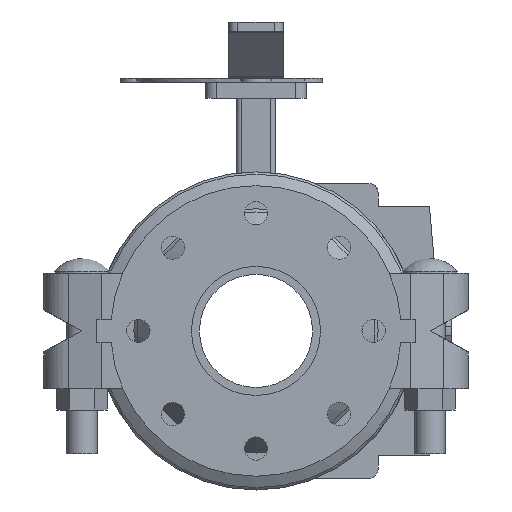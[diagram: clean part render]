
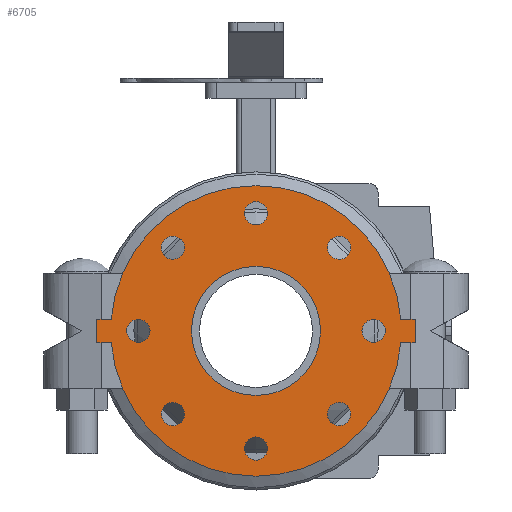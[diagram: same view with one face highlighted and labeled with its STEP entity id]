
A CAD part, front view. The second image highlights one B-rep face of the part: STEP entity #6705.
In plain terms, the highlighted planar face has unit normal (0, -1, 0) as drawn and (0, 0, -1) by its records, which use the part's own axes.
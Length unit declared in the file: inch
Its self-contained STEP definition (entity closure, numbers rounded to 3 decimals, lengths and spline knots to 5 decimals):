
#159=FACE_BOUND('',#837,.T.);
#160=FACE_BOUND('',#838,.T.);
#161=FACE_BOUND('',#839,.T.);
#162=FACE_BOUND('',#840,.T.);
#163=FACE_BOUND('',#841,.T.);
#164=FACE_BOUND('',#842,.T.);
#165=FACE_BOUND('',#843,.T.);
#166=FACE_BOUND('',#844,.T.);
#167=FACE_BOUND('',#845,.T.);
#245=PLANE('',#7271);
#464=FACE_OUTER_BOUND('',#836,.T.);
#836=EDGE_LOOP('',(#4358,#4359,#4360,#4361,#4362,#4363,#4364,#4365));
#837=EDGE_LOOP('',(#4366));
#838=EDGE_LOOP('',(#4367));
#839=EDGE_LOOP('',(#4368));
#840=EDGE_LOOP('',(#4369));
#841=EDGE_LOOP('',(#4370));
#842=EDGE_LOOP('',(#4371));
#843=EDGE_LOOP('',(#4372));
#844=EDGE_LOOP('',(#4373));
#845=EDGE_LOOP('',(#4374));
#1273=LINE('',#10175,#1788);
#1276=LINE('',#10181,#1791);
#1279=LINE('',#10186,#1794);
#1281=LINE('',#10191,#1796);
#1285=LINE('',#10198,#1800);
#1287=LINE('',#10201,#1802);
#1788=VECTOR('',#8099,0.3937);
#1791=VECTOR('',#8104,0.3937);
#1794=VECTOR('',#8109,0.3937);
#1796=VECTOR('',#8113,0.3937);
#1800=VECTOR('',#8119,0.3937);
#1802=VECTOR('',#8123,0.3937);
#2291=CIRCLE('',#7233,0.315);
#2293=CIRCLE('',#7236,0.315);
#2295=CIRCLE('',#7239,0.315);
#2297=CIRCLE('',#7242,0.315);
#2299=CIRCLE('',#7245,0.315);
#2301=CIRCLE('',#7248,0.315);
#2303=CIRCLE('',#7251,0.315);
#2305=CIRCLE('',#7254,0.315);
#2306=CIRCLE('',#7256,1.75);
#2308=CIRCLE('',#7259,3.94);
#2311=CIRCLE('',#7263,3.94);
#2675=VERTEX_POINT('',#10104);
#2677=VERTEX_POINT('',#10110);
#2679=VERTEX_POINT('',#10116);
#2681=VERTEX_POINT('',#10122);
#2683=VERTEX_POINT('',#10128);
#2685=VERTEX_POINT('',#10134);
#2687=VERTEX_POINT('',#10140);
#2689=VERTEX_POINT('',#10146);
#2690=VERTEX_POINT('',#10150);
#2692=VERTEX_POINT('',#10156);
#2694=VERTEX_POINT('',#10159);
#2696=VERTEX_POINT('',#10165);
#2699=VERTEX_POINT('',#10170);
#2700=VERTEX_POINT('',#10174);
#2702=VERTEX_POINT('',#10180);
#2704=VERTEX_POINT('',#10189);
#2705=VERTEX_POINT('',#10190);
#3320=EDGE_CURVE('',#2675,#2675,#2291,.T.);
#3323=EDGE_CURVE('',#2677,#2677,#2293,.T.);
#3326=EDGE_CURVE('',#2679,#2679,#2295,.T.);
#3329=EDGE_CURVE('',#2681,#2681,#2297,.T.);
#3332=EDGE_CURVE('',#2683,#2683,#2299,.T.);
#3335=EDGE_CURVE('',#2685,#2685,#2301,.T.);
#3338=EDGE_CURVE('',#2687,#2687,#2303,.T.);
#3341=EDGE_CURVE('',#2689,#2689,#2305,.T.);
#3342=EDGE_CURVE('',#2690,#2690,#2306,.T.);
#3346=EDGE_CURVE('',#2692,#2694,#2308,.T.);
#3352=EDGE_CURVE('',#2699,#2696,#2311,.T.);
#3353=EDGE_CURVE('',#2694,#2700,#1273,.T.);
#3356=EDGE_CURVE('',#2702,#2699,#1276,.T.);
#3359=EDGE_CURVE('',#2700,#2702,#1279,.T.);
#3361=EDGE_CURVE('',#2704,#2705,#1281,.T.);
#3365=EDGE_CURVE('',#2696,#2704,#1285,.T.);
#3367=EDGE_CURVE('',#2705,#2692,#1287,.T.);
#4358=ORIENTED_EDGE('',*,*,#3367,.F.);
#4359=ORIENTED_EDGE('',*,*,#3361,.F.);
#4360=ORIENTED_EDGE('',*,*,#3365,.F.);
#4361=ORIENTED_EDGE('',*,*,#3352,.F.);
#4362=ORIENTED_EDGE('',*,*,#3356,.F.);
#4363=ORIENTED_EDGE('',*,*,#3359,.F.);
#4364=ORIENTED_EDGE('',*,*,#3353,.F.);
#4365=ORIENTED_EDGE('',*,*,#3346,.F.);
#4366=ORIENTED_EDGE('',*,*,#3320,.T.);
#4367=ORIENTED_EDGE('',*,*,#3323,.T.);
#4368=ORIENTED_EDGE('',*,*,#3326,.T.);
#4369=ORIENTED_EDGE('',*,*,#3329,.T.);
#4370=ORIENTED_EDGE('',*,*,#3332,.T.);
#4371=ORIENTED_EDGE('',*,*,#3335,.T.);
#4372=ORIENTED_EDGE('',*,*,#3338,.T.);
#4373=ORIENTED_EDGE('',*,*,#3341,.T.);
#4374=ORIENTED_EDGE('',*,*,#3342,.T.);
#6705=ADVANCED_FACE('',(#464,#159,#160,#161,#162,#163,#164,#165,#166,#167),
#245,.F.);
#7233=AXIS2_PLACEMENT_3D('',#10106,#8023,#8024);
#7236=AXIS2_PLACEMENT_3D('',#10112,#8030,#8031);
#7239=AXIS2_PLACEMENT_3D('',#10118,#8037,#8038);
#7242=AXIS2_PLACEMENT_3D('',#10124,#8044,#8045);
#7245=AXIS2_PLACEMENT_3D('',#10130,#8051,#8052);
#7248=AXIS2_PLACEMENT_3D('',#10136,#8058,#8059);
#7251=AXIS2_PLACEMENT_3D('',#10142,#8065,#8066);
#7254=AXIS2_PLACEMENT_3D('',#10148,#8072,#8073);
#7256=AXIS2_PLACEMENT_3D('',#10151,#8076,#8077);
#7259=AXIS2_PLACEMENT_3D('',#10160,#8084,#8085);
#7263=AXIS2_PLACEMENT_3D('',#10172,#8095,#8096);
#7271=AXIS2_PLACEMENT_3D('',#10204,#8127,#8128);
#8023=DIRECTION('center_axis',(0.,0.,1.));
#8024=DIRECTION('ref_axis',(-0.707,-0.707,0.));
#8030=DIRECTION('center_axis',(0.,0.,1.));
#8031=DIRECTION('ref_axis',(-1.,0.,0.));
#8037=DIRECTION('center_axis',(0.,0.,1.));
#8038=DIRECTION('ref_axis',(-0.707,0.707,0.));
#8044=DIRECTION('center_axis',(0.,0.,1.));
#8045=DIRECTION('ref_axis',(0.,1.,0.));
#8051=DIRECTION('center_axis',(0.,0.,1.));
#8052=DIRECTION('ref_axis',(0.707,0.707,0.));
#8058=DIRECTION('center_axis',(0.,0.,1.));
#8059=DIRECTION('ref_axis',(1.,0.,0.));
#8065=DIRECTION('center_axis',(0.,0.,1.));
#8066=DIRECTION('ref_axis',(0.707,-0.707,0.));
#8072=DIRECTION('center_axis',(0.,0.,1.));
#8073=DIRECTION('ref_axis',(0.,-1.,0.));
#8076=DIRECTION('center_axis',(0.,0.,1.));
#8077=DIRECTION('ref_axis',(0.,-1.,0.));
#8084=DIRECTION('center_axis',(0.,0.,1.));
#8085=DIRECTION('ref_axis',(0.,1.,0.));
#8095=DIRECTION('center_axis',(0.,0.,1.));
#8096=DIRECTION('ref_axis',(0.,1.,0.));
#8099=DIRECTION('',(0.,-1.,0.));
#8104=DIRECTION('',(0.,1.,0.));
#8109=DIRECTION('',(1.,0.,0.));
#8113=DIRECTION('',(-1.,0.,0.));
#8119=DIRECTION('',(0.,1.,0.));
#8123=DIRECTION('',(0.,-1.,0.));
#8127=DIRECTION('center_axis',(0.,0.,1.));
#8128=DIRECTION('ref_axis',(0.,1.,0.));
#10104=CARTESIAN_POINT('',(-2.03293,2.47841,0.));
#10106=CARTESIAN_POINT('Origin',(-2.25567,2.25567,0.));
#10110=CARTESIAN_POINT('',(0.315,3.19,0.));
#10112=CARTESIAN_POINT('Origin',(0.,3.19,0.));
#10116=CARTESIAN_POINT('',(2.47841,2.03293,0.));
#10118=CARTESIAN_POINT('Origin',(2.25567,2.25567,0.));
#10122=CARTESIAN_POINT('',(3.19,-0.315,0.));
#10124=CARTESIAN_POINT('Origin',(3.19,0.,0.));
#10128=CARTESIAN_POINT('',(2.03293,-2.47841,0.));
#10130=CARTESIAN_POINT('Origin',(2.25567,-2.25567,0.));
#10134=CARTESIAN_POINT('',(-0.315,-3.19,0.));
#10136=CARTESIAN_POINT('Origin',(0.,-3.19,0.));
#10140=CARTESIAN_POINT('',(-2.47841,-2.03293,0.));
#10142=CARTESIAN_POINT('Origin',(-2.25567,-2.25567,0.));
#10146=CARTESIAN_POINT('',(-3.19,0.315,0.));
#10148=CARTESIAN_POINT('Origin',(-3.19,0.,0.));
#10150=CARTESIAN_POINT('',(0.,1.75,0.));
#10151=CARTESIAN_POINT('Origin',(0.,0.,0.));
#10156=CARTESIAN_POINT('',(-0.32,3.92698,0.));
#10159=CARTESIAN_POINT('',(-0.32,-3.92698,0.));
#10160=CARTESIAN_POINT('Origin',(0.,0.,0.));
#10165=CARTESIAN_POINT('',(0.32,3.92698,0.));
#10170=CARTESIAN_POINT('',(0.32,-3.92698,0.));
#10172=CARTESIAN_POINT('Origin',(0.,0.,0.));
#10174=CARTESIAN_POINT('',(-0.32,-4.315,0.));
#10175=CARTESIAN_POINT('',(-0.32,-3.92698,0.));
#10180=CARTESIAN_POINT('',(0.32,-4.315,0.));
#10181=CARTESIAN_POINT('',(0.32,-4.315,0.));
#10186=CARTESIAN_POINT('',(-0.32,-4.315,0.));
#10189=CARTESIAN_POINT('',(0.32,4.315,0.));
#10190=CARTESIAN_POINT('',(-0.32,4.315,0.));
#10191=CARTESIAN_POINT('',(0.32,4.315,0.));
#10198=CARTESIAN_POINT('',(0.32,3.92698,0.));
#10201=CARTESIAN_POINT('',(-0.32,4.315,0.));
#10204=CARTESIAN_POINT('Origin',(0.,4.1395,
0.));
